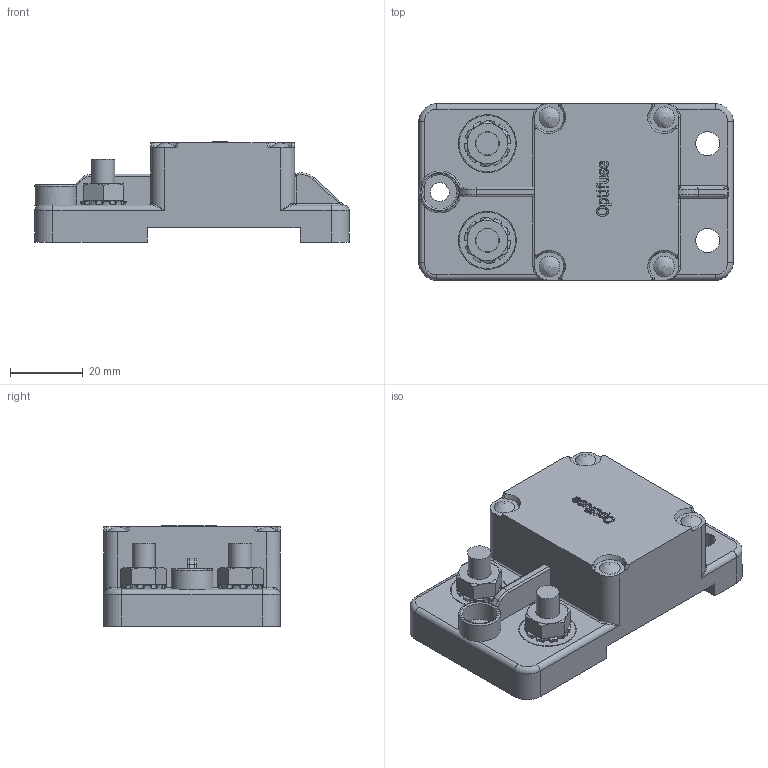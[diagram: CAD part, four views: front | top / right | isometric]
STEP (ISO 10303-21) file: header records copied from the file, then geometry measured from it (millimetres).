
FILE_DESCRIPTION(/* description */ (''),/* implementation_level */ '2;1');
FILE_NAME(/* name */ 'C:\Users\Hani\Desktop\work\451\451 Circuit Breaker.stp',/* time_stamp */ '2022-02-06T11:46:22-08:00',/* author */ ('Hani'),/* organization */ (''),/* preprocessor_version */ 'ST-DEVELOPER v17',/* originating_system */ 'Autodesk Inventor 2019',/* authorisation */ '');
FILE_SCHEMA (('AUTOMOTIVE_DESIGN { 1 0 10303 214 3 1 1 }'));
Products named in the file (7): 253 Circuit Breaker; Circuit_Breaker series 153; washer; bolt; .250-28 HEX NUT WITH TOOTH WASHER; washer_MIR; .250-28 HEX NUT WITH TOOTH WASHER_MIR
Assembly tree (9 placements, depth 2):
  253 Circuit Breaker
    Circuit_Breaker series 153
    washer
    bolt  x4
    .250-28 HEX NUT WITH TOOTH WASHER
    washer_MIR
    .250-28 HEX NUT WITH TOOTH WASHER_MIR
Bounding box: 86.35 x 48.5 x 27.55 mm (x, y, z)
Volume: 66885.4 mm3; surface area: 19547.4 mm2
Topology: 11 solids, 11 shells, 542 faces, 1425 edges, 918 vertices
Faces by surface type: plane 180, cylinder 147, bspline 139, cone 60, torus 14, sphere 2
Full cylindrical faces by diameter (mm): 3.429 x4, 3.5 x4, 5.2 x1, 5.368 x8, 6.35 x18, 6.6 x2, 7 x2, 8.757 x2, 9.5 x1, 15.494 x2, 15.875 x2
Entity records: 22568 total; most frequent: CARTESIAN_POINT 10248, ORIENTED_EDGE 2794, DIRECTION 2099, EDGE_CURVE 1397, VERTEX_POINT 903, AXIS2_PLACEMENT_3D 759, LINE 581, VECTOR 581
